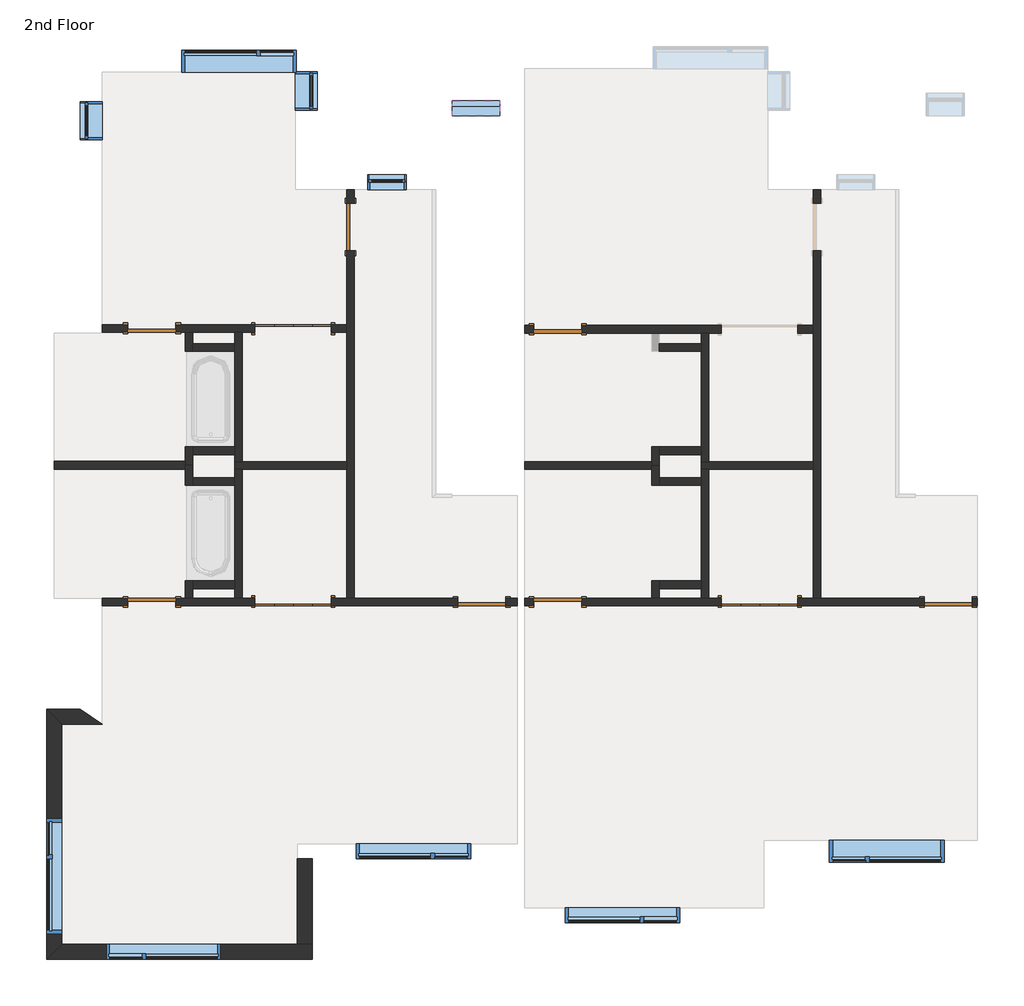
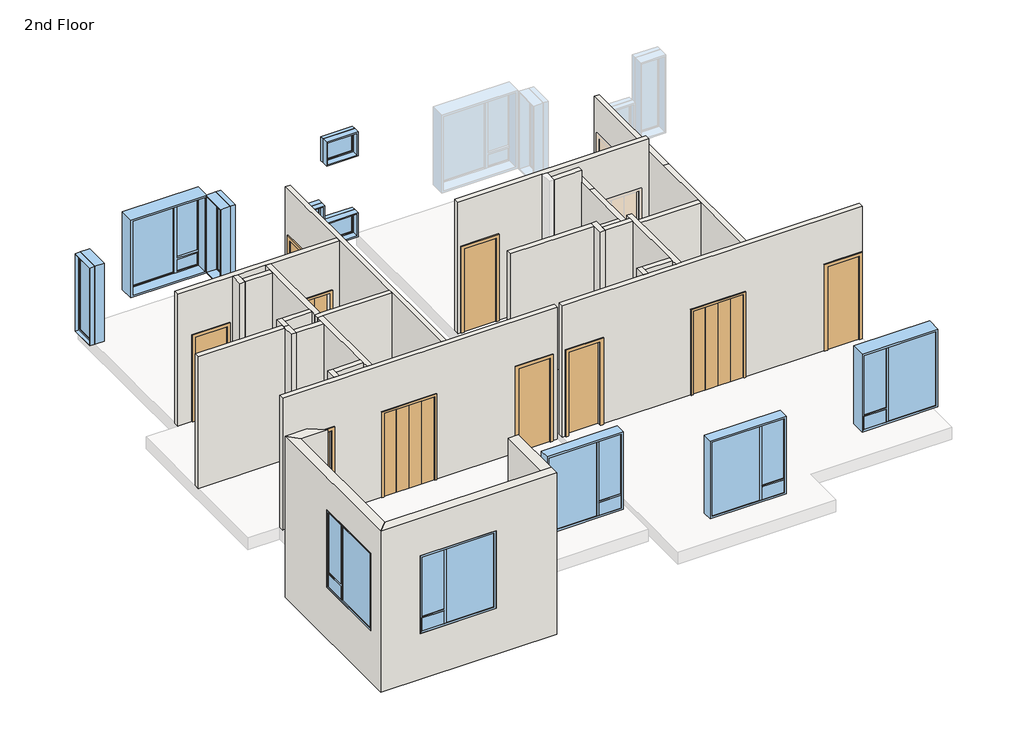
# One storey, part 1 of 2: 33 walls, 12 windows, 10 doors.
"""IFC4 building model written with IfcOpenShell, lengths in millimetres."""

from ifc_helpers import new_model, si_unit, frame, origin, place, context, project, spatial, polyline, outline, extrude, faceted_brep, transform, mapped, element, save
from components import bifold_4_panel_c9060b8c, bifold_4_panel_87549022, door_f8acb57e, door_702a1063, window_8bf192ed, window_b1c1038b, window_03925a3a, window_7b40078c, window_0ea17b29, window_b4566f23

model = new_model("IFC4")

# Units and contexts
model_context = context("Model", 3, world=origin())
ifc_project = project(units=[si_unit("LENGTHUNIT", "METRE", prefix="MILLI")], contexts=[model_context])

# Site, building, storey
site = spatial("IfcSite", under=ifc_project)
building = spatial("IfcBuilding", under=site)
storey = spatial("IfcBuildingStorey", under=building, Name="2nd Floor", Elevation=3352.8)

# Doors
placement = place(None, origin())
bifold_4_panel_shape = bifold_4_panel_c9060b8c(model_context)
element("IfcDoor", 1, ObjectType="Bifold - 4 panel : 48\" x  84\"", at=placement, inside=storey, context=model_context, shape_type="MappedRepresentation", body=[
    mapped(bifold_4_panel_shape, transform((2169.4655789, -2059.4561915, 3352.8), x_axis=(1.0, 0.0, 0.0), y_axis=(0.0, 1.0, 0.0), z_axis=(0.0, 0.0, 1.0))),
])
element("IfcDoor", 2, ObjectType="Bifold - 4 panel : 48\" x  84\"", at=placement, inside=storey, context=model_context, shape_type="MappedRepresentation", body=[
    mapped(bifold_4_panel_shape, transform((-5271.2844211, -2059.4561915, 3352.8), x_axis=(1.0, 0.0, 0.0), y_axis=(0.0, 1.0, 0.0), z_axis=(0.0, 0.0, 1.0))),
])
bifold_4_panel_2_shape = bifold_4_panel_87549022(model_context)
element("IfcDoor", 3, ObjectType="Bifold - 4 panel : 48\" x  84\"", at=placement, inside=storey, context=model_context, shape_type="MappedRepresentation", body=[
    mapped(bifold_4_panel_2_shape, transform((-5271.2844211, 2303.8199206, 3352.8), x_axis=(1.0, 0.0, 0.0), y_axis=(0.0, 1.0, 0.0), z_axis=(0.0, 0.0, 1.0))),
])
door_shape = door_f8acb57e(model_context)
element("IfcDoor", 4, ObjectType="Single-Flush : 30\" x 84\"", at=placement, inside=storey, context=model_context, shape_type="MappedRepresentation", body=[
    mapped(door_shape, transform((-1052.2446781, 2292.6699206, 3352.8), x_axis=(-1.0, 0.0, 0.0), y_axis=(0.0, -1.0, 0.0), z_axis=(0.0, 0.0, 1.0))),
])
element("IfcDoor", 5, ObjectType="Single-Flush : 30\" x 84\"", at=placement, inside=storey, context=model_context, shape_type="MappedRepresentation", body=[
    mapped(door_shape, transform((-4356.8844211, 3921.3063085, 3352.8), x_axis=(0.0, 1.0, 0.0), y_axis=(-1.0, 0.0, 0.0), z_axis=(0.0, 0.0, 1.0))),
])
element("IfcDoor", 6, ObjectType="Single-Flush : 30\" x 84\"", at=placement, inside=storey, context=model_context, shape_type="MappedRepresentation", body=[
    mapped(door_shape, transform((-7524.7446781, -2059.4561915, 3352.8), x_axis=(1.0, 0.0, 0.0), y_axis=(0.0, 1.0, 0.0), z_axis=(0.0, 0.0, 1.0))),
])
door_2_shape = door_702a1063(model_context)
element("IfcDoor", 7, ObjectType="Single-Flush : 30\" x 84\"", at=placement, inside=storey, context=model_context, shape_type="MappedRepresentation", body=[
    mapped(door_2_shape, transform((-1052.2446781, -2059.4561915, 3352.8), x_axis=(-1.0, 0.0, 0.0), y_axis=(0.0, -1.0, 0.0), z_axis=(0.0, 0.0, 1.0))),
])
element("IfcDoor", 8, ObjectType="Single-Flush : 30\" x 84\"", at=placement, inside=storey, context=model_context, shape_type="MappedRepresentation", body=[
    mapped(door_2_shape, transform((5177.5155789, -2059.4561915, 3352.8), x_axis=(1.0, 0.0, 0.0), y_axis=(0.0, 1.0, 0.0), z_axis=(0.0, 0.0, 1.0))),
])
element("IfcDoor", 9, ObjectType="Single-Flush : 30\" x 84\"", at=placement, inside=storey, context=model_context, shape_type="MappedRepresentation", body=[
    mapped(door_2_shape, transform((-7524.7446781, 2303.8199206, 3352.8), x_axis=(1.0, 0.0, 0.0), y_axis=(0.0, 1.0, 0.0), z_axis=(0.0, 0.0, 1.0))),
])
element("IfcDoor", 10, ObjectType="Single-Flush : 30\" x 84\"", at=placement, inside=storey, context=model_context, shape_type="MappedRepresentation", body=[
    mapped(door_2_shape, transform((-2263.2344211, -2059.4561915, 3352.8), x_axis=(1.0, 0.0, 0.0), y_axis=(0.0, 1.0, 0.0), z_axis=(0.0, 0.0, 1.0))),
])

# Walls
element("IfcWall", 11, ObjectType="Exterior - Stucco", at=placement, inside=storey, context=model_context, shape_type="Brep", body=[
    faceted_brep([(-9204.3196781, -7758.9936915, 2952.8), (-4962.9321781, -7758.9936915, 2952.8), (-4962.9321781, -7758.9936915, 7052.8), (-9204.3196781, -7758.9936915, 7052.8), (-8255.0946781, -7758.9936915, 6096.0), (-6426.2946781, -7758.9936915, 6096.0), (-6426.2946781, -7758.9936915, 4114.8), (-8255.0946781, -7758.9936915, 4114.8), (-8963.0196781, -7517.6936915, 2952.8), (-8963.0196781, -7517.6936915, 7052.8), (-5204.2321781, -7517.6936915, 7052.8), (-4962.9321781, -7517.6936915, 7052.8), (-4962.9321781, -7517.6936915, 2952.8), (-5204.2321781, -7517.6936915, 2952.8), (-8255.0946781, -7517.6936915, 6096.0), (-8255.0946781, -7517.6936915, 4114.8), (-6426.2946781, -7517.6936915, 4114.8), (-6426.2946781, -7517.6936915, 6096.0)], [[[0, 1, 2, 3], [4, 5, 6, 7]], [[8, 9, 10, 11, 12, 13], [14, 15, 16, 17]], [[1, 0, 8, 13, 12]], [[3, 2, 11, 10, 9]], [[0, 3, 9, 8]], [[2, 1, 12, 11]], [[15, 14, 4, 7]], [[16, 15, 7, 6]], [[17, 16, 6, 5]], [[14, 17, 5, 4]]]),
])
element("IfcWall", 12, ObjectType="Exterior - Stucco", at=placement, inside=storey, context=model_context, shape_type="Brep", body=[
    faceted_brep([(-9204.3196781, -3770.7811915, 2952.8), (-9204.3196781, -7758.9936915, 2952.8), (-9204.3196781, -7758.9936915, 7052.8), (-9204.3196781, -3770.7811915, 7052.8), (-9204.3196781, -5519.0311915, 6248.4), (-9204.3196781, -7347.8311915, 6248.4), (-9204.3196781, -7347.8311915, 4267.2), (-9204.3196781, -5519.0311915, 4267.2), (-8963.0196781, -4012.0811915, 2952.8), (-8963.0196781, -4012.0811915, 7052.8), (-8963.0196781, -7517.6936915, 7052.8), (-8963.0196781, -7517.6936915, 2952.8), (-8963.0196781, -5519.0311915, 6248.4), (-8963.0196781, -5519.0311915, 4267.2), (-8963.0196781, -7347.8311915, 4267.2), (-8963.0196781, -7347.8311915, 6248.4)], [[[0, 1, 2, 3], [4, 5, 6, 7]], [[8, 9, 10, 11], [12, 13, 14, 15]], [[1, 0, 8, 11]], [[3, 2, 10, 9]], [[2, 1, 11, 10]], [[0, 3, 9, 8]], [[13, 12, 4, 7]], [[14, 13, 7, 6]], [[15, 14, 6, 5]], [[12, 15, 5, 4]]]),
])
element("IfcWall", 13, ObjectType="Exterior - Stucco", at=placement, inside=storey, context=model_context, shape_type="SweptSolid", body=[
    extrude(outline(polyline([(-9204.3196781, -3770.7811915), (-8664.6696781, -3770.7811915), (-8312.2446781, -4012.0811915), (-8963.0196781, -4012.0811915), (-9204.3196781, -3770.7811915)])), frame((0.0, 0.0, 2952.8), z_axis=(0.0, 0.0, 1.0), x_axis=(1.0, 0.0, 0.0)), (0.0, 0.0, 1.0), 4100.0),
])
element("IfcWall", 14, ObjectType="Exterior - Stucco", at=placement, inside=storey, context=model_context, shape_type="Brep", body=[
    faceted_brep([(-4962.9321781, -7517.6936915, 2952.75), (-4962.9321781, -6155.1546456, 2952.75), (-4962.9321781, -6155.1546456, 7052.6671875), (-4962.9321781, -7517.6936915, 7052.6671875), (-5204.2321781, -7517.6936915, 2952.75), (-5204.2321781, -7517.6936915, 7052.6671875), (-5204.2321781, -6155.1546456, 7052.6671875), (-5204.2321781, -6155.1546456, 3048.0), (-5204.2321781, -6155.1546456, 2952.75)], [[[0, 1, 2, 3]], [[4, 5, 6, 7, 8]], [[1, 0, 4, 8]], [[3, 2, 6, 5]], [[1, 8, 7, 6, 2]], [[0, 3, 5, 4]]]),
])
element("IfcWall", 15, ObjectType="Interior - 4 7/8\" Partition (1-hr)", at=placement, inside=storey, context=model_context, shape_type="Brep", body=[
    faceted_brep([(3145.7780789, 4302.3063085, 5486.4), (3145.7780789, 4302.3063085, 3352.8), (3145.7780789, 4511.8563085, 3352.8), (3145.7780789, 4511.8563085, 6400.8), (3145.7780789, 1625.1313085, 6400.8), (3145.7780789, -1997.5436915, 6400.8), (3145.7780789, -1997.5436915, 3352.8), (3145.7780789, 3540.3063085, 3352.8), (3145.7780789, 3540.3063085, 5486.4), (3021.9530789, 4511.8563085, 3352.8), (3021.9530789, 4302.3063085, 3352.8), (3021.9530789, 4302.3063085, 5486.4), (3021.9530789, 3540.3063085, 5486.4), (3021.9530789, 3540.3063085, 3352.8), (3021.9530789, 2354.5824206, 3352.8), (3021.9530789, 2230.7574206, 3352.8), (3021.9530789, 178.5193646, 3352.8), (3021.9530789, 54.6943646, 3352.8), (3021.9530789, -1997.5436915, 3352.8), (3021.9530789, -1997.5436915, 6400.8), (3021.9530789, 54.6943646, 6400.8), (3021.9530789, 178.5193646, 6400.8), (3021.9530789, 1625.1313085, 6400.8), (3021.9530789, 4511.8563085, 6400.8)], [[[0, 1, 2, 3, 4, 5, 6, 7, 8]], [[9, 10, 11, 12, 13, 14, 15, 16, 17, 18, 19, 20, 21, 22, 23]], [[2, 1, 10, 9]], [[7, 6, 18, 17, 16, 15, 14, 13]], [[9, 23, 3, 2]], [[23, 22, 4, 3]], [[22, 21, 20, 19, 5, 4]], [[19, 18, 6, 5]], [[11, 10, 1, 0]], [[12, 11, 0, 8]], [[13, 12, 8, 7]]]),
])
element("IfcWall", 16, ObjectType="Interior - 4 7/8\" Partition (1-hr)", at=placement, inside=storey, context=model_context, shape_type="Brep", body=[
    faceted_brep([(3021.9530789, 54.6943646, 3352.8), (3021.9530789, 54.6943646, 6400.8), (1235.1530789, 54.6943646, 6400.8), (1235.1530789, 54.6943646, 3352.8), (1358.9780789, 54.6943646, 3352.8), (3021.9530789, 178.5193646, 3352.8), (1358.9780789, 178.5193646, 3352.8), (1235.1530789, 178.5193646, 3352.8), (1235.1530789, 178.5193646, 6400.8), (1358.9780789, 178.5193646, 6400.8), (3021.9530789, 178.5193646, 6400.8)], [[[0, 1, 2, 3, 4]], [[5, 6, 7, 8, 9, 10]], [[7, 6, 5, 0, 4, 3]], [[8, 7, 3, 2]], [[5, 10, 1, 0]], [[10, 9, 8, 2, 1]]]),
])
element("IfcWall", 17, ObjectType="Interior - 4 7/8\" Partition (1-hr)", at=placement, inside=storey, context=model_context, shape_type="Brep", body=[
    faceted_brep([(3021.9530789, 2354.5824206, 6705.6), (-1576.1196781, 2354.5824206, 6705.6), (-1576.1196781, 2230.7574206, 6705.6), (447.7530789, 2230.7574206, 6705.6), (571.5780789, 2230.7574206, 6705.6), (3021.9530789, 2230.7574206, 6705.6), (-1576.1196781, 2230.7574206, 3352.8), (-1433.2446781, 2230.7574206, 3352.8), (-1433.2446781, 2230.7574206, 5486.4), (-671.2446781, 2230.7574206, 5486.4), (-671.2446781, 2230.7574206, 3352.8), (447.7530789, 2230.7574206, 3352.8), (571.5780789, 2230.7574206, 3352.8), (1235.1530789, 2230.7574206, 3352.8), (1358.9780789, 2230.7574206, 3352.8), (1559.8655789, 2230.7574206, 3352.8), (1559.8655789, 2230.7574206, 5486.4), (2779.0655789, 2230.7574206, 5486.4), (2779.0655789, 2230.7574206, 3352.8), (3021.9530789, 2230.7574206, 3352.8), (3021.9530789, 2354.5824206, 3352.8), (2779.0655789, 2354.5824206, 3352.8), (2779.0655789, 2354.5824206, 5486.4), (1559.8655789, 2354.5824206, 5486.4), (1559.8655789, 2354.5824206, 3352.8), (-671.2446781, 2354.5824206, 3352.8), (-671.2446781, 2354.5824206, 5486.4), (-1433.2446781, 2354.5824206, 5486.4), (-1433.2446781, 2354.5824206, 3352.8), (-1576.1196781, 2354.5824206, 3352.8)], [[[0, 1, 2, 3, 4, 5]], [[5, 4, 3, 2, 6, 7, 8, 9, 10, 11, 12, 13, 14, 15, 16, 17, 18, 19]], [[1, 0, 20, 21, 22, 23, 24, 25, 26, 27, 28, 29]], [[20, 19, 18, 21]], [[6, 29, 28, 7]], [[24, 15, 14, 13, 12, 11, 10, 25]], [[20, 0, 5, 19]], [[1, 29, 6, 2]], [[17, 22, 21, 18]], [[22, 17, 16, 23]], [[23, 16, 15, 24]], [[27, 8, 7, 28]], [[8, 27, 26, 9]], [[9, 26, 25, 10]]]),
])
element("IfcWall", 18, ObjectType="Interior - 4 7/8\" Partition (1-hr)", at=placement, inside=storey, context=model_context, shape_type="Brep", body=[
    faceted_brep([(1235.1530789, 178.5193646, 3352.8), (1235.1530789, 178.5193646, 6400.8), (1235.1530789, 289.2824206, 6400.8), (1235.1530789, 413.1074206, 6400.8), (1235.1530789, 1625.1313085, 6400.8), (1235.1530789, 2230.7574206, 6400.8), (1235.1530789, 2230.7574206, 3352.8), (1235.1530789, 2060.9324206, 3352.8), (1235.1530789, 1937.1074206, 3352.8), (1235.1530789, 413.1074206, 3352.8), (1235.1530789, 289.2824206, 3352.8), (1358.9780789, 178.5193646, 3352.8), (1358.9780789, 2230.7574206, 3352.8), (1358.9780789, 2230.7574206, 6400.8), (1358.9780789, 1625.1313085, 6400.8), (1358.9780789, 178.5193646, 6400.8)], [[[0, 1, 2, 3, 4, 5, 6, 7, 8, 9, 10]], [[11, 12, 13, 14, 15]], [[12, 11, 0, 10, 9, 8, 7, 6]], [[11, 15, 1, 0]], [[13, 12, 6, 5]], [[14, 13, 5, 4]], [[15, 14, 4, 3, 2, 1]]]),
])
element("IfcWall", 19, ObjectType="Interior - 4 7/8\" Partition (1-hr)", at=placement, inside=storey, context=model_context, shape_type="SweptSolid", body=[
    extrude(outline(polyline([(1235.1530789, 1937.1074206), (571.5780789, 1937.1074206), (571.5780789, 2060.9324206), (1235.1530789, 2060.9324206), (1235.1530789, 1937.1074206)])), frame((0.0, 0.0, 3352.8), z_axis=(0.0, 0.0, 1.0), x_axis=(1.0, 0.0, 0.0)), (0.0, 0.0, 1.0), 3352.8),
])
element("IfcWall", 20, ObjectType="Interior - 4 7/8\" Partition (1-hr)", at=placement, inside=storey, context=model_context, shape_type="Brep", body=[
    faceted_brep([(571.5780789, 116.6068646, 3352.8), (571.5780789, 116.6068646, 6400.8), (447.7530789, 116.6068646, 6400.8), (447.7530789, 116.6068646, 3352.8), (447.7530789, 178.5193646, 6400.8), (447.7530789, 413.1074206, 6400.8), (447.7530789, 413.1074206, 3352.8), (447.7530789, 178.5193646, 3352.8), (571.5780789, 289.2824206, 3352.8), (571.5780789, 413.1074206, 3352.8), (571.5780789, 413.1074206, 6400.8), (571.5780789, 289.2824206, 6400.8), (571.5780789, 178.5193646, 6400.8)], [[[0, 1, 2, 3]], [[3, 2, 4, 5, 6, 7]], [[0, 8, 9, 10, 11, 12, 1]], [[9, 8, 0, 3, 7, 6]], [[10, 9, 6, 5]], [[1, 12, 11, 10, 5, 4, 2]]]),
])
element("IfcWall", 21, ObjectType="Interior - 4 7/8\" Partition (1-hr)", at=placement, inside=storey, context=model_context, shape_type="SweptSolid", body=[
    extrude(outline(polyline([(1235.1530789, 289.2824206), (571.5780789, 289.2824206), (571.5780789, 413.1074206), (1235.1530789, 413.1074206), (1235.1530789, 289.2824206)])), frame((0.0, 0.0, 3352.8), z_axis=(0.0, 0.0, 1.0), x_axis=(1.0, 0.0, 0.0)), (0.0, 0.0, 1.0), 3048.0),
])
element("IfcWall", 22, ObjectType="Interior - 4 7/8\" Partition (1-hr)", at=placement, inside=storey, context=model_context, shape_type="Brep", body=[
    faceted_brep([(5642.6530789, -1997.5436915, 6705.6), (1358.9780789, -1997.5436915, 6705.6), (1235.1530789, -1997.5436915, 6705.6), (571.5780789, -1997.5436915, 6705.6), (447.7530789, -1997.5436915, 6705.6), (-1576.1196781, -1997.5436915, 6705.6), (-1576.1196781, -2121.3686915, 6705.6), (5642.6530789, -2121.3686915, 6705.6), (5558.5155789, -2121.3686915, 5486.4), (5558.5155789, -2121.3686915, 3352.8), (5642.6530789, -2121.3686915, 3352.8), (-1576.1196781, -2121.3686915, 3352.8), (-1433.2446781, -2121.3686915, 3352.8), (-1433.2446781, -2121.3686915, 5486.4), (-671.2446781, -2121.3686915, 5486.4), (-671.2446781, -2121.3686915, 3352.8), (1559.8655789, -2121.3686915, 3352.8), (1559.8655789, -2121.3686915, 5486.4), (2779.0655789, -2121.3686915, 5486.4), (2779.0655789, -2121.3686915, 3352.8), (4796.5155789, -2121.3686915, 3352.8), (4796.5155789, -2121.3686915, 5486.4), (5642.6530789, -1997.5436915, 3352.8), (5558.5155789, -1997.5436915, 3352.8), (5558.5155789, -1997.5436915, 5486.4), (4796.5155789, -1997.5436915, 5486.4), (4796.5155789, -1997.5436915, 3352.8), (3145.7780789, -1997.5436915, 3352.8), (3021.9530789, -1997.5436915, 3352.8), (2779.0655789, -1997.5436915, 3352.8), (2779.0655789, -1997.5436915, 5486.4), (1559.8655789, -1997.5436915, 5486.4), (1559.8655789, -1997.5436915, 3352.8), (1358.9780789, -1997.5436915, 3352.8), (1235.1530789, -1997.5436915, 3352.8), (571.5780789, -1997.5436915, 3352.8), (447.7530789, -1997.5436915, 3352.8), (-671.2446781, -1997.5436915, 3352.8), (-671.2446781, -1997.5436915, 5486.4), (-1433.2446781, -1997.5436915, 5486.4), (-1433.2446781, -1997.5436915, 3352.8), (-1576.1196781, -1997.5436915, 3352.8)], [[[0, 1, 2, 3, 4, 5, 6, 7]], [[8, 9, 10, 7, 6, 11, 12, 13, 14, 15, 16, 17, 18, 19, 20, 21]], [[22, 23, 24, 25, 26, 27, 28, 29, 30, 31, 32, 33, 34, 35, 36, 37, 38, 39, 40, 41, 5, 4, 3, 2, 1, 0]], [[10, 9, 23, 22]], [[11, 41, 40, 12]], [[32, 16, 15, 37, 36, 35, 34, 33]], [[20, 19, 29, 28, 27, 26]], [[22, 0, 7, 10]], [[5, 41, 11, 6]], [[30, 29, 19, 18]], [[31, 30, 18, 17]], [[32, 31, 17, 16]], [[39, 13, 12, 40]], [[13, 39, 38, 14]], [[14, 38, 37, 15]], [[24, 23, 9, 8]], [[25, 24, 8, 21]], [[26, 25, 21, 20]]]),
])
element("IfcWall", 23, ObjectType="Interior - 4 7/8\" Partition (1-hr)", at=placement, inside=storey, context=model_context, shape_type="Brep", body=[
    faceted_brep([(1235.1530789, 54.6943646, 3352.8), (1235.1530789, -76.6556354, 3352.8), (1235.1530789, -200.4806354, 3352.8), (1235.1530789, -1724.4806354, 3352.8), (1235.1530789, -1848.3056354, 3352.8), (1235.1530789, -1997.5436915, 3352.8), (1235.1530789, -1997.5436915, 6705.6), (1235.1530789, -1848.3056354, 6705.6), (1235.1530789, -1724.4806354, 6705.6), (1235.1530789, -200.4806354, 6705.6), (1235.1530789, -76.6556354, 6705.6), (1235.1530789, 54.6943646, 6705.6), (1235.1530789, 54.6943646, 6400.8), (1358.9780789, 54.6943646, 3352.8), (1358.9780789, 54.6943646, 6705.6), (1358.9780789, -1997.5436915, 6705.6), (1358.9780789, -1997.5436915, 3352.8)], [[[0, 1, 2, 3, 4, 5, 6, 7, 8, 9, 10, 11, 12]], [[13, 14, 15, 16]], [[5, 4, 3, 2, 1, 0, 13, 16]], [[11, 10, 9, 8, 7, 6, 15, 14]], [[6, 5, 16, 15]], [[0, 12, 11, 14, 13]]]),
])
element("IfcWall", 24, ObjectType="Interior - 4 7/8\" Partition (1-hr)", at=placement, inside=storey, context=model_context, shape_type="Brep", body=[
    faceted_brep([(571.5780789, -1997.5436915, 3352.8), (571.5780789, -1848.3056354, 3352.8), (571.5780789, -1724.4806354, 3352.8), (571.5780789, -1724.4806354, 6705.6), (571.5780789, -1848.3056354, 6705.6), (571.5780789, -1997.5436915, 6705.6), (447.7530789, -1997.5436915, 3352.8), (447.7530789, -1997.5436915, 6705.6), (447.7530789, -1724.4806354, 6705.6), (447.7530789, -1724.4806354, 3352.8)], [[[0, 1, 2, 3, 4, 5]], [[6, 7, 8, 9]], [[2, 1, 0, 6, 9]], [[5, 4, 3, 8, 7]], [[3, 2, 9, 8]], [[0, 5, 7, 6]]]),
])
element("IfcWall", 25, ObjectType="Interior - 4 7/8\" Partition (1-hr)", at=placement, inside=storey, context=model_context, shape_type="SweptSolid", body=[
    extrude(outline(polyline([(1235.1530789, -1848.3056354), (571.5780789, -1848.3056354), (571.5780789, -1724.4806354), (1235.1530789, -1724.4806354), (1235.1530789, -1848.3056354)])), frame((0.0, 0.0, 3352.8), z_axis=(0.0, 0.0, 1.0), x_axis=(1.0, 0.0, 0.0)), (0.0, 0.0, 1.0), 3352.8),
])
element("IfcWall", 26, ObjectType="Interior - 4 7/8\" Partition (1-hr)", at=placement, inside=storey, context=model_context, shape_type="Brep", body=[
    faceted_brep([(447.7530789, 116.6068646, 3352.8), (447.7530789, 54.6943646, 3352.8), (447.7530789, -200.4806354, 3352.8), (447.7530789, -200.4806354, 6705.6), (447.7530789, 54.6943646, 6705.6), (447.7530789, 178.5193646, 6705.6), (447.7530789, 178.5193646, 6400.8), (447.7530789, 116.6068646, 6400.8), (571.5780789, 116.6068646, 3352.8), (571.5780789, 116.6068646, 6400.8), (571.5780789, 178.5193646, 6400.8), (571.5780789, 178.5193646, 6705.6), (571.5780789, -76.6556354, 6705.6), (571.5780789, -200.4806354, 6705.6), (571.5780789, -200.4806354, 3352.8), (571.5780789, -76.6556354, 3352.8)], [[[0, 1, 2, 3, 4, 5, 6, 7]], [[8, 9, 10, 11, 12, 13, 14, 15]], [[2, 1, 0, 8, 15, 14]], [[5, 4, 3, 13, 12, 11]], [[3, 2, 14, 13]], [[0, 7, 9, 8]], [[6, 10, 9, 7]], [[6, 5, 11, 10]]]),
])
element("IfcWall", 27, ObjectType="Interior - 4 7/8\" Partition (1-hr)", at=placement, inside=storey, context=model_context, shape_type="SweptSolid", body=[
    extrude(outline(polyline([(1235.1530789, -200.4806354), (571.5780789, -200.4806354), (571.5780789, -76.6556354), (1235.1530789, -76.6556354), (1235.1530789, -200.4806354)])), frame((0.0, 0.0, 3352.8), z_axis=(0.0, 0.0, 1.0), x_axis=(1.0, 0.0, 0.0)), (0.0, 0.0, 1.0), 3352.8),
])
element("IfcWall", 28, ObjectType="Interior - 4 7/8\" Partition (1-hr)", at=placement, inside=storey, context=model_context, shape_type="Brep", body=[
    faceted_brep([(447.7530789, 178.5193646, 6705.6), (447.7530789, 178.5193646, 6400.8), (447.7530789, 178.5193646, 3352.8), (-1576.1196781, 178.5193646, 3352.8), (-1576.1196781, 178.5193646, 6705.6), (447.7530789, 54.6943646, 3352.8), (447.7530789, 54.6943646, 6705.6), (-1576.1196781, 54.6943646, 6705.6), (-1576.1196781, 54.6943646, 3352.8), (447.7530789, 116.6068646, 3352.8)], [[[0, 1, 2, 3, 4]], [[5, 6, 7, 8]], [[3, 2, 9, 5, 8]], [[0, 4, 7, 6]], [[0, 6, 5, 9, 2, 1]], [[4, 3, 8, 7]]]),
])
element("IfcWall", 29, ObjectType="Interior - 4 7/8\" Partition (1-hr)", at=placement, inside=storey, context=model_context, shape_type="Brep", body=[
    faceted_brep([(-4418.7969211, 4511.8563085, 6705.6), (-4418.7969211, 2365.7324206, 6705.6), (-4418.7969211, 2241.9074206, 6705.6), (-4418.7969211, 178.5193646, 6705.6), (-4418.7969211, 54.6943646, 6705.6), (-4418.7969211, -1997.5436915, 6705.6), (-4294.9719211, -1997.5436915, 6705.6), (-4294.9719211, 4511.8563085, 6705.6), (-4294.9719211, 4302.3063085, 5486.4), (-4294.9719211, 4302.3063085, 3352.8), (-4294.9719211, 4511.8563085, 3352.8), (-4294.9719211, -1997.5436915, 3352.8), (-4294.9719211, 3540.3063085, 3352.8), (-4294.9719211, 3540.3063085, 5486.4), (-4418.7969211, 4511.8563085, 3352.8), (-4418.7969211, 4302.3063085, 3352.8), (-4418.7969211, 4302.3063085, 5486.4), (-4418.7969211, 3540.3063085, 5486.4), (-4418.7969211, 3540.3063085, 3352.8), (-4418.7969211, 2365.7324206, 3352.8), (-4418.7969211, 2241.9074206, 3352.8), (-4418.7969211, 178.5193646, 3352.8), (-4418.7969211, 54.6943646, 3352.8), (-4418.7969211, -1997.5436915, 3352.8)], [[[0, 1, 2, 3, 4, 5, 6, 7]], [[8, 9, 10, 7, 6, 11, 12, 13]], [[14, 15, 16, 17, 18, 19, 20, 21, 22, 23, 5, 4, 3, 2, 1, 0]], [[10, 9, 15, 14]], [[12, 11, 23, 22, 21, 20, 19, 18]], [[5, 23, 11, 6]], [[14, 0, 7, 10]], [[16, 15, 9, 8]], [[17, 16, 8, 13]], [[18, 17, 13, 12]]]),
])
element("IfcWall", 30, ObjectType="Interior - 4 7/8\" Partition (1-hr)", at=placement, inside=storey, context=model_context, shape_type="Brep", body=[
    faceted_brep([(-4418.7969211, 178.5193646, 3352.8), (-6081.7719211, 178.5193646, 3352.8), (-6205.5969211, 178.5193646, 3352.8), (-6205.5969211, 178.5193646, 6705.6), (-6081.7719211, 178.5193646, 6705.6), (-4418.7969211, 178.5193646, 6705.6), (-4418.7969211, 54.6943646, 3352.8), (-4418.7969211, 54.6943646, 6705.6), (-6081.7719211, 54.6943646, 6705.6), (-6205.5969211, 54.6943646, 6705.6), (-6205.5969211, 54.6943646, 3352.8), (-6081.7719211, 54.6943646, 3352.8)], [[[0, 1, 2, 3, 4, 5]], [[6, 7, 8, 9, 10, 11]], [[2, 1, 0, 6, 11, 10]], [[5, 4, 3, 9, 8, 7]], [[3, 2, 10, 9]], [[0, 5, 7, 6]]]),
])
element("IfcWall", 31, ObjectType="Interior - 4 7/8\" Partition (1-hr)", at=placement, inside=storey, context=model_context, shape_type="Brep", body=[
    faceted_brep([(-4418.7969211, 2365.7324206, 6705.6), (-8312.2446781, 2365.7324206, 6705.6), (-8312.2446781, 2241.9074206, 6705.6), (-6992.9969211, 2241.9074206, 6705.6), (-6869.1719211, 2241.9074206, 6705.6), (-6205.5969211, 2241.9074206, 6705.6), (-6081.7719211, 2241.9074206, 6705.6), (-4418.7969211, 2241.9074206, 6705.6), (-8312.2446781, 2241.9074206, 3352.8), (-7905.7446781, 2241.9074206, 3352.8), (-7905.7446781, 2241.9074206, 5486.4), (-7143.7446781, 2241.9074206, 5486.4), (-7143.7446781, 2241.9074206, 3352.8), (-6992.9969211, 2241.9074206, 3352.8), (-6869.1719211, 2241.9074206, 3352.8), (-6205.5969211, 2241.9074206, 3352.8), (-6081.7719211, 2241.9074206, 3352.8), (-5880.8844211, 2241.9074206, 3352.8), (-5880.8844211, 2241.9074206, 5486.4), (-4661.6844211, 2241.9074206, 5486.4), (-4661.6844211, 2241.9074206, 3352.8), (-4418.7969211, 2241.9074206, 3352.8), (-4418.7969211, 2365.7324206, 3352.8), (-4661.6844211, 2365.7324206, 3352.8), (-4661.6844211, 2365.7324206, 5486.4), (-5880.8844211, 2365.7324206, 5486.4), (-5880.8844211, 2365.7324206, 3352.8), (-7143.7446781, 2365.7324206, 3352.8), (-7143.7446781, 2365.7324206, 5486.4), (-7905.7446781, 2365.7324206, 5486.4), (-7905.7446781, 2365.7324206, 3352.8), (-8312.2446781, 2365.7324206, 3352.8)], [[[0, 1, 2, 3, 4, 5, 6, 7]], [[7, 6, 5, 4, 3, 2, 8, 9, 10, 11, 12, 13, 14, 15, 16, 17, 18, 19, 20, 21]], [[1, 0, 22, 23, 24, 25, 26, 27, 28, 29, 30, 31]], [[22, 21, 20, 23]], [[8, 31, 30, 9]], [[26, 17, 16, 15, 14, 13, 12, 27]], [[22, 0, 7, 21]], [[1, 31, 8, 2]], [[19, 24, 23, 20]], [[24, 19, 18, 25]], [[25, 18, 17, 26]], [[11, 28, 27, 12]], [[28, 11, 10, 29]], [[29, 10, 9, 30]]]),
])
element("IfcWall", 32, ObjectType="Interior - 4 7/8\" Partition (1-hr)", at=placement, inside=storey, context=model_context, shape_type="Brep", body=[
    faceted_brep([(-1699.9446781, -1997.5436915, 6705.6), (-4294.9719211, -1997.5436915, 6705.6), (-4418.7969211, -1997.5436915, 6705.6), (-6081.7719211, -1997.5436915, 6705.6), (-6205.5969211, -1997.5436915, 6705.6), (-6869.1719211, -1997.5436915, 6705.6), (-6992.9969211, -1997.5436915, 6705.6), (-8312.2446781, -1997.5436915, 6705.6), (-8312.2446781, -2121.3686915, 6705.6), (-1699.9446781, -2121.3686915, 6705.6), (-1882.2344211, -2121.3686915, 5486.4), (-1882.2344211, -2121.3686915, 3352.8), (-1699.9446781, -2121.3686915, 3352.8), (-8312.2446781, -2121.3686915, 3352.8), (-7905.7446781, -2121.3686915, 3352.8), (-7905.7446781, -2121.3686915, 5486.4), (-7143.7446781, -2121.3686915, 5486.4), (-7143.7446781, -2121.3686915, 3352.8), (-6218.0913287, -2121.3686915, 3352.8), (-5880.8844211, -2121.3686915, 3352.8), (-5880.8844211, -2121.3686915, 5486.4), (-4661.6844211, -2121.3686915, 5486.4), (-4661.6844211, -2121.3686915, 3352.8), (-2644.2344211, -2121.3686915, 3352.8), (-2644.2344211, -2121.3686915, 5486.4), (-1699.9446781, -1997.5436915, 3352.8), (-1882.2344211, -1997.5436915, 3352.8), (-1882.2344211, -1997.5436915, 5486.4), (-2644.2344211, -1997.5436915, 5486.4), (-2644.2344211, -1997.5436915, 3352.8), (-4294.9719211, -1997.5436915, 3352.8), (-4418.7969211, -1997.5436915, 3352.8), (-4661.6844211, -1997.5436915, 3352.8), (-4661.6844211, -1997.5436915, 5486.4), (-5880.8844211, -1997.5436915, 5486.4), (-5880.8844211, -1997.5436915, 3352.8), (-6081.7719211, -1997.5436915, 3352.8), (-6205.5969211, -1997.5436915, 3352.8), (-6218.0913287, -1997.5436915, 3352.8), (-6869.1719211, -1997.5436915, 3352.8), (-6992.9969211, -1997.5436915, 3352.8), (-7143.7446781, -1997.5436915, 3352.8), (-7143.7446781, -1997.5436915, 5486.4), (-7905.7446781, -1997.5436915, 5486.4), (-7905.7446781, -1997.5436915, 3352.8), (-8312.2446781, -1997.5436915, 3352.8)], [[[0, 1, 2, 3, 4, 5, 6, 7, 8, 9]], [[10, 11, 12, 9, 8, 13, 14, 15, 16, 17, 18, 19, 20, 21, 22, 23, 24]], [[25, 26, 27, 28, 29, 30, 31, 32, 33, 34, 35, 36, 37, 38, 39, 40, 41, 42, 43, 44, 45, 7, 6, 5, 4, 3, 2, 1, 0]], [[13, 45, 44, 14]], [[12, 11, 26, 25]], [[35, 19, 18, 17, 41, 40, 39, 38, 37, 36]], [[23, 22, 32, 31, 30, 29]], [[7, 45, 13, 8]], [[25, 0, 9, 12]], [[33, 32, 22, 21]], [[34, 33, 21, 20]], [[35, 34, 20, 19]], [[16, 42, 41, 17]], [[42, 16, 15, 43]], [[43, 15, 14, 44]], [[27, 26, 11, 10]], [[28, 27, 10, 24]], [[29, 28, 24, 23]]]),
])
element("IfcWall", 33, ObjectType="Interior - 4 7/8\" Partition (1-hr)", at=placement, inside=storey, context=model_context, shape_type="Brep", body=[
    faceted_brep([(-6205.5969211, 54.6943646, 3352.8), (-6205.5969211, -76.6556354, 3352.8), (-6205.5969211, -200.4806354, 3352.8), (-6205.5969211, -1724.4806354, 3352.8), (-6205.5969211, -1848.3056354, 3352.8), (-6205.5969211, -1997.5436915, 3352.8), (-6205.5969211, -1997.5436915, 6705.6), (-6205.5969211, -1848.3056354, 6705.6), (-6205.5969211, -1724.4806354, 6705.6), (-6205.5969211, -200.4806354, 6705.6), (-6205.5969211, -76.6556354, 6705.6), (-6205.5969211, 54.6943646, 6705.6), (-6081.7719211, 54.6943646, 3352.8), (-6081.7719211, 54.6943646, 6705.6), (-6081.7719211, -1997.5436915, 6705.6), (-6081.7719211, -1997.5436915, 3352.8)], [[[0, 1, 2, 3, 4, 5, 6, 7, 8, 9, 10, 11]], [[12, 13, 14, 15]], [[5, 4, 3, 2, 1, 0, 12, 15]], [[11, 10, 9, 8, 7, 6, 14, 13]], [[6, 5, 15, 14]], [[0, 11, 13, 12]]]),
])
element("IfcWall", 34, ObjectType="Interior - 4 7/8\" Partition (1-hr)", at=placement, inside=storey, context=model_context, shape_type="Brep", body=[
    faceted_brep([(-6869.1719211, -1997.5436915, 3352.8), (-6869.1719211, -1848.3056354, 3352.8), (-6869.1719211, -1724.4806354, 3352.8), (-6869.1719211, -1724.4806354, 6705.6), (-6869.1719211, -1848.3056354, 6705.6), (-6869.1719211, -1997.5436915, 6705.6), (-6992.9969211, -1997.5436915, 3352.8), (-6992.9969211, -1997.5436915, 6705.6), (-6992.9969211, -1724.4806354, 6705.6), (-6992.9969211, -1724.4806354, 3352.8)], [[[0, 1, 2, 3, 4, 5]], [[6, 7, 8, 9]], [[2, 1, 0, 6, 9]], [[5, 4, 3, 8, 7]], [[3, 2, 9, 8]], [[0, 5, 7, 6]]]),
])
element("IfcWall", 35, ObjectType="Interior - 4 7/8\" Partition (1-hr)", at=placement, inside=storey, context=model_context, shape_type="SweptSolid", body=[
    extrude(outline(polyline([(-6205.5969211, -1848.3056354), (-6869.1719211, -1848.3056354), (-6869.1719211, -1724.4806354), (-6205.5969211, -1724.4806354), (-6205.5969211, -1848.3056354)])), frame((0.0, 0.0, 3352.8), z_axis=(0.0, 0.0, 1.0), x_axis=(1.0, 0.0, 0.0)), (0.0, 0.0, 1.0), 3352.8),
])
element("IfcWall", 36, ObjectType="Interior - 4 7/8\" Partition (1-hr)", at=placement, inside=storey, context=model_context, shape_type="Brep", body=[
    faceted_brep([(-6992.9969211, 122.5949206, 3352.8), (-6992.9969211, 60.6824206, 3352.8), (-6992.9969211, -200.4806354, 3352.8), (-6992.9969211, -200.4806354, 6705.6), (-6992.9969211, 60.6824206, 6705.6), (-6992.9969211, 122.5949206, 6705.6), (-6869.1719211, 122.5949206, 3352.8), (-6869.1719211, 122.5949206, 6705.6), (-6869.1719211, -76.6556354, 6705.6), (-6869.1719211, -200.4806354, 6705.6), (-6869.1719211, -200.4806354, 3352.8), (-6869.1719211, -76.6556354, 3352.8)], [[[0, 1, 2, 3, 4, 5]], [[6, 7, 8, 9, 10, 11]], [[2, 1, 0, 6, 11, 10]], [[5, 4, 3, 9, 8, 7]], [[0, 5, 7, 6]], [[3, 2, 10, 9]]]),
])
element("IfcWall", 37, ObjectType="Interior - 4 7/8\" Partition (1-hr)", at=placement, inside=storey, context=model_context, shape_type="SweptSolid", body=[
    extrude(outline(polyline([(-6205.5969211, -200.4806354), (-6869.1719211, -200.4806354), (-6869.1719211, -76.6556354), (-6205.5969211, -76.6556354), (-6205.5969211, -200.4806354)])), frame((0.0, 0.0, 3352.8), z_axis=(0.0, 0.0, 1.0), x_axis=(1.0, 0.0, 0.0)), (0.0, 0.0, 1.0), 3352.8),
])
element("IfcWall", 38, ObjectType="Interior - Tile Wainscot", at=placement, inside=storey, context=model_context, shape_type="Brep", body=[
    faceted_brep([(-6081.7719211, 178.5193646, 3352.8), (-6081.7719211, 2241.9074206, 3352.8), (-6081.7719211, 2241.9074206, 6705.6), (-6081.7719211, 178.5193646, 6705.6), (-6205.5969211, 178.5193646, 3352.8), (-6205.5969211, 178.5193646, 6705.6), (-6205.5969211, 289.2824206, 6705.6), (-6205.5969211, 413.1074206, 6705.6), (-6205.5969211, 1937.1074206, 6705.6), (-6205.5969211, 2060.9324206, 6705.6), (-6205.5969211, 2241.9074206, 6705.6), (-6205.5969211, 2241.9074206, 3352.8), (-6205.5969211, 2060.9324206, 3352.8), (-6205.5969211, 1937.1074206, 3352.8), (-6205.5969211, 413.1074206, 3352.8), (-6205.5969211, 289.2824206, 3352.8)], [[[0, 1, 2, 3]], [[4, 5, 6, 7, 8, 9, 10, 11, 12, 13, 14, 15]], [[1, 0, 4, 15, 14, 13, 12, 11]], [[3, 2, 10, 9, 8, 7, 6, 5]], [[0, 3, 5, 4]], [[2, 1, 11, 10]]]),
])
element("IfcWall", 39, ObjectType="Interior - Tile Wainscot", at=placement, inside=storey, context=model_context, shape_type="Brep", body=[
    faceted_brep([(-6992.9969211, 2241.9074206, 3352.8), (-6992.9969211, 1937.1074206, 3352.8), (-6992.9969211, 1937.1074206, 6705.6), (-6992.9969211, 2241.9074206, 6705.6), (-6869.1719211, 2241.9074206, 3352.8), (-6869.1719211, 2241.9074206, 6705.6), (-6869.1719211, 2060.9324206, 6705.6), (-6869.1719211, 1937.1074206, 6705.6), (-6869.1719211, 1937.1074206, 3352.8), (-6869.1719211, 2060.9324206, 3352.8)], [[[0, 1, 2, 3]], [[4, 5, 6, 7, 8, 9]], [[1, 0, 4, 9, 8]], [[3, 2, 7, 6, 5]], [[2, 1, 8, 7]], [[0, 3, 5, 4]]]),
])
element("IfcWall", 40, ObjectType="Interior - Tile Wainscot", at=placement, inside=storey, context=model_context, shape_type="SweptSolid", body=[
    extrude(outline(polyline([(-6205.5969211, 1937.1074206), (-6869.1719211, 1937.1074206), (-6869.1719211, 2060.9324206), (-6205.5969211, 2060.9324206), (-6205.5969211, 1937.1074206)])), frame((0.0, 0.0, 3352.8), z_axis=(0.0, 0.0, 1.0), x_axis=(1.0, 0.0, 0.0)), (0.0, 0.0, 1.0), 3352.8),
])
element("IfcWall", 41, ObjectType="Interior - Tile Wainscot", at=placement, inside=storey, context=model_context, shape_type="Brep", body=[
    faceted_brep([(-6869.1719211, 122.5949206, 3352.8), (-6869.1719211, 289.2824206, 3352.8), (-6869.1719211, 413.1074206, 3352.8), (-6869.1719211, 413.1074206, 6705.6), (-6869.1719211, 289.2824206, 6705.6), (-6869.1719211, 122.5949206, 6705.6), (-6992.9969211, 122.5949206, 3352.8), (-6992.9969211, 122.5949206, 6705.6), (-6992.9969211, 184.5074206, 6705.6), (-6992.9969211, 413.1074206, 6705.6), (-6992.9969211, 413.1074206, 3352.8), (-6992.9969211, 184.5074206, 3352.8)], [[[0, 1, 2, 3, 4, 5]], [[6, 7, 8, 9, 10, 11]], [[2, 1, 0, 6, 11, 10]], [[5, 4, 3, 9, 8, 7]], [[0, 5, 7, 6]], [[3, 2, 10, 9]]]),
])
element("IfcWall", 42, ObjectType="Interior - Tile Wainscot", at=placement, inside=storey, context=model_context, shape_type="SweptSolid", body=[
    extrude(outline(polyline([(-6205.5969211, 289.2824206), (-6869.1719211, 289.2824206), (-6869.1719211, 413.1074206), (-6205.5969211, 413.1074206), (-6205.5969211, 289.2824206)])), frame((0.0, 0.0, 3352.8), z_axis=(0.0, 0.0, 1.0), x_axis=(1.0, 0.0, 0.0)), (0.0, 0.0, 1.0), 3352.8),
])
element("IfcWall", 43, ObjectType="Interior - Tile Wainscot", at=placement, inside=storey, context=model_context, shape_type="Brep", body=[
    faceted_brep([(-6992.9969211, 184.5074206, 3352.8), (-9080.4946781, 184.5074206, 3352.8), (-9080.4946781, 184.5074206, 6705.6), (-6992.9969211, 184.5074206, 6705.6), (-6992.9969211, 60.6824206, 3352.8), (-6992.9969211, 60.6824206, 6705.6), (-9080.4946781, 60.6824206, 6705.6), (-9080.4946781, 60.6824206, 3352.8), (-6992.9969211, 122.5949206, 3352.8), (-6992.9969211, 122.5949206, 6705.6)], [[[0, 1, 2, 3]], [[4, 5, 6, 7]], [[1, 0, 8, 4, 7]], [[3, 2, 6, 5, 9]], [[0, 3, 9, 5, 4, 8]], [[2, 1, 7, 6]]]),
])

# Windows
window_shape = window_8bf192ed(model_context)
element("IfcWindow", 44, ObjectType="Fixed : 24\" x 30\"", at=placement, inside=storey, context=model_context, shape_type="MappedRepresentation", body=[
    mapped(window_shape, transform((-2317.4821781, 5817.7187973, 2946.4), x_axis=(1.0, 0.0, 0.0), y_axis=(0.0, 1.0, 0.0), z_axis=(0.0, 0.0, 1.0))),
])
element("IfcWindow", 45, ObjectType="Fixed : 24\" x 30\"", at=placement, inside=storey, context=model_context, shape_type="MappedRepresentation", body=[
    mapped(window_shape, transform((-2317.4821781, 5817.7187973, 5003.8), x_axis=(1.0, 0.0, 0.0), y_axis=(0.0, 1.0, 0.0), z_axis=(0.0, 0.0, 1.0))),
])
window_2_shape = window_b1c1038b(model_context)
element("IfcWindow", 46, ObjectType="Fixed : 24\" x 78\"", at=placement, inside=storey, context=model_context, shape_type="MappedRepresentation", body=[
    mapped(window_2_shape, transform((-8488.4571781, 5654.8563085, 3352.8), x_axis=(0.0, 1.0, 0.0), y_axis=(-1.0, 0.0, 0.0), z_axis=(0.0, 0.0, 1.0))),
])
element("IfcWindow", 47, ObjectType="Fixed : 24\" x 78\"", at=placement, inside=storey, context=model_context, shape_type="MappedRepresentation", body=[
    mapped(window_2_shape, transform((-5059.2321781, 6051.7313085, 3352.8), x_axis=(0.0, -1.0, 0.0), y_axis=(1.0, 0.0, 0.0), z_axis=(0.0, 0.0, 1.0))),
])
window_3_shape = window_03925a3a(model_context)
element("IfcWindow", 48, ObjectType="Fixed : 24\" x 78\"", at=placement, inside=storey, context=model_context, shape_type="MappedRepresentation", body=[
    mapped(window_3_shape, transform((-3737.7610601, 4632.5063085, 3606.8), x_axis=(1.0, 0.0, 0.0), y_axis=(0.0, 1.0, 0.0), z_axis=(0.0, 0.0, 1.0))),
])
element("IfcWindow", 49, ObjectType="Fixed : 24\" x 78\"", at=placement, inside=storey, context=model_context, shape_type="MappedRepresentation", body=[
    mapped(window_3_shape, transform((-3737.7610601, 4632.5063085, 1346.2), x_axis=(1.0, 0.0, 0.0), y_axis=(0.0, 1.0, 0.0), z_axis=(0.0, 0.0, 1.0))),
])
window_4_shape = window_7b40078c(model_context)
element("IfcWindow", 50, ObjectType="Window-Casement-Double-Sidelight : 72\" x 78\"", at=placement, inside=storey, context=model_context, shape_type="MappedRepresentation", body=[
    mapped(window_4_shape, transform((4195.3655789, -6034.5046456, 3352.8), x_axis=(-1.0, 0.0, 0.0), y_axis=(0.0, -1.0, 0.0), z_axis=(0.0, 0.0, 1.0))),
])
element("IfcWindow", 51, ObjectType="Window-Casement-Double-Sidelight : 72\" x 78\"", at=placement, inside=storey, context=model_context, shape_type="MappedRepresentation", body=[
    mapped(window_4_shape, transform((-6134.0446781, 6565.7063085, 2743.2), x_axis=(1.0, 0.0, 0.0), y_axis=(0.0, 1.0, 0.0), z_axis=(0.0, 0.0, 1.0))),
])
window_5_shape = window_0ea17b29(model_context)
element("IfcWindow", 52, ObjectType="Window-Casement-Double-Sidelight : 72\" x 78\"", at=placement, inside=storey, context=model_context, shape_type="MappedRepresentation", body=[
    mapped(window_5_shape, transform((-9083.6696781, -6433.4311915, 3352.8), x_axis=(0.0, 1.0, 0.0), y_axis=(-1.0, 0.0, 0.0), z_axis=(0.0, 0.0, 1.0))),
])
element("IfcWindow", 53, ObjectType="Window-Casement-Double-Sidelight : 72\" x 78\"", at=placement, inside=storey, context=model_context, shape_type="MappedRepresentation", body=[
    mapped(window_5_shape, transform((-7340.6946781, -7638.3436915, 3200.4), x_axis=(-1.0, 0.0, 0.0), y_axis=(0.0, -1.0, 0.0), z_axis=(0.0, 0.0, 1.0))),
])
window_6_shape = window_b4566f23(model_context)
element("IfcWindow", 54, ObjectType="Window-Casement-Double-Sidelight : 72\" x 78\"", at=placement, inside=storey, context=model_context, shape_type="MappedRepresentation", body=[
    mapped(window_6_shape, transform((-16.2061336, -7054.5811915, 3200.4), x_axis=(1.0, 0.0, 0.0), y_axis=(0.0, 1.0, 0.0), z_axis=(0.0, 0.0, 1.0))),
])
element("IfcWindow", 55, ObjectType="Window-Casement-Double-Sidelight : 72\" x 78\"", at=placement, inside=storey, context=model_context, shape_type="MappedRepresentation", body=[
    mapped(window_6_shape, transform((-3352.6515857, -6034.5046456, 3352.8), x_axis=(1.0, 0.0, 0.0), y_axis=(0.0, 1.0, 0.0), z_axis=(0.0, 0.0, 1.0))),
])

save(model, "model.ifc")
